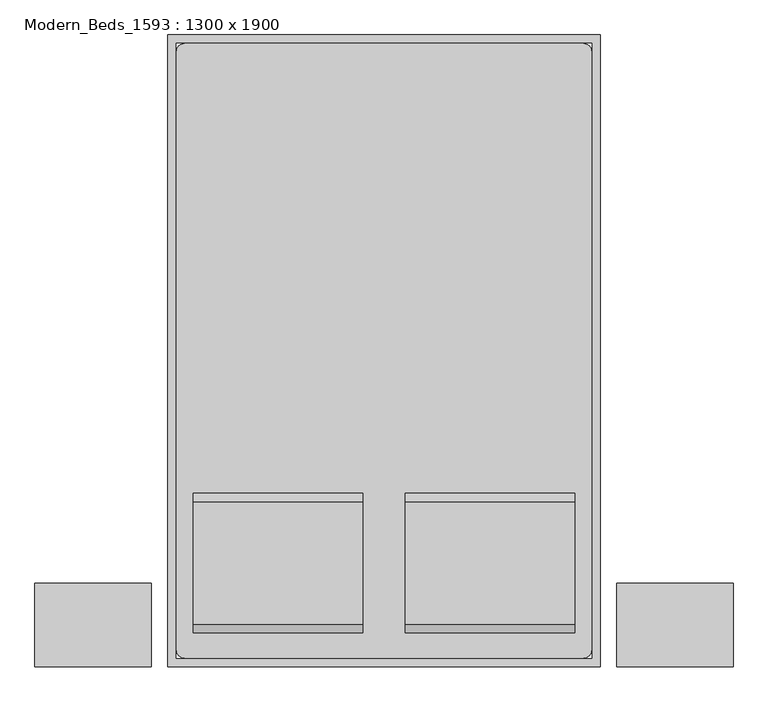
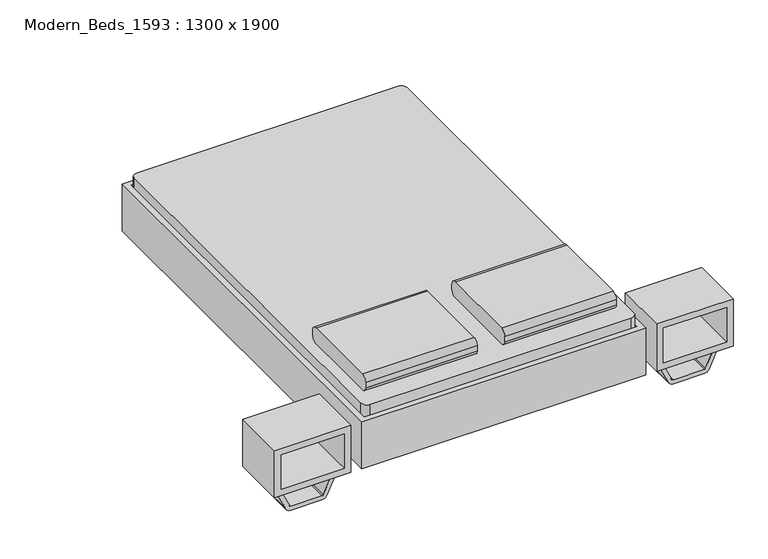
"""IFC4 building model written with IfcOpenShell, lengths in millimetres: furniture geometry, Modern_Beds_1593 : 1300 x 1900."""

from ifc_helpers import new_model, si_unit, point, frame, frame_2d, origin, place, context, project, spatial, polyline, circle_curve, trimmed, segment, composite_curve, outline, extrude, source, transform, mapped, element, save
from ifc_brep_helpers import plane_surface, cylinder_surface, revolved_surface, advanced_brep


def modern_beds_1593_1300_x_1900_d7e98e7a(model_context):
    return source(origin(), model_context, "Body", "SolidModel", [
        advanced_brep(
        [(-285.1231784, -461.5704918, 177.8), (-285.1231784, -461.5704918, 196.85), (-285.1231784, -385.3704918, 196.85), (-285.1231784, -385.3704918, 177.8), (-234.3231784, -385.3704918, 177.8), (-234.3231784, -461.5704918, 177.8), (-222.1869899, -385.3704918, 196.85), (-222.1869899, -461.5704918, 196.85), (-158.2523099, -385.3704918, 14.6654962), (-158.2523099, -461.5704918, 14.6654962), (-140.9871466, -385.3704918, 22.716374), (-140.9871466, -461.5704918, 22.716374), (-135.2320921, -385.3704918, 0.0), (-135.2320921, -461.5704918, 0.0), (-135.2320921, -385.3704918, 19.05), (-135.2320921, -461.5704918, 19.05), (-56.6195862, -385.3704918, 0.0), (-56.6195862, -461.5704918, 0.0), (-56.6195862, -385.3704918, 19.05), (-56.6195862, -461.5704918, 19.05), (-43.9195862, -385.3704918, 3.4029547), (-43.9195862, -461.5704918, 3.4029547), (-53.4445862, -385.3704918, 19.9007387), (-53.4445862, -461.5704918, 19.9007387), (16.177459, -385.3704918, 38.1), (16.177459, -461.5704918, 38.1), (11.0730269, -385.3704918, 57.15), (11.0730269, -461.5704918, 57.15), (662.4518216, -385.3704918, 38.1), (662.4518216, -461.5704918, 38.1), (667.5562537, -385.3704918, 57.15), (667.5562537, -461.5704918, 57.15), (722.5488669, -385.3704918, 3.4029547), (722.5488669, -461.5704918, 3.4029547), (732.0738669, -385.3704918, 19.9007387), (732.0738669, -461.5704918, 19.9007387), (735.2488669, -385.3704918, 0.0), (735.2488669, -461.5704918, 0.0), (735.2488669, -385.3704918, 19.05), (735.2488669, -461.5704918, 19.05), (813.8613728, -385.3704918, 0.0), (813.8613728, -461.5704918, 0.0), (813.8613728, -385.3704918, 19.05), (813.8613728, -461.5704918, 19.05), (836.8815906, -385.3704918, 14.6654962), (836.8815906, -461.5704918, 14.6654962), (819.6164272, -385.3704918, 22.716374), (819.6164272, -461.5704918, 22.716374), (912.952459, -385.3704918, 177.8), (912.952459, -461.5704918, 177.8), (900.8162705, -385.3704918, 196.85), (900.8162705, -461.5704918, 196.85), (963.752459, -461.5704918, 177.8), (963.752459, -385.3704918, 177.8), (963.752459, -385.3704918, 196.85), (963.752459, -461.5704918, 196.85)],
        [
            (0, 1),
            (1, 2),
            (2, 3),
            (3, 0),
            (3, 4),
            (4, 5),
            (5, 0),
            (2, 6),
            (6, 4),
            (1, 7),
            (7, 6),
            (5, 7),
            (4, 8),
            (8, 9),
            (9, 5),
            (6, 10),
            (10, 8),
            (7, 11),
            (11, 10),
            (9, 11),
            (12, 13),
            (13, 9, circle_curve(frame((-135.2320921, -461.5704918, 25.4), z_axis=(0.0, 1.0, 0.0), x_axis=(-0.9063077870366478, 0.0, -0.4226182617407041)), 25.4)),
            (8, 12, circle_curve(frame((-135.2320921, -385.3704918, 25.4), z_axis=(0.0, -1.0, 0.0), x_axis=(-0.9063077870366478, 0.0, -0.4226182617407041)), 25.4)),
            (14, 12),
            (10, 14, circle_curve(frame((-135.2320921, -385.3704918, 25.4), z_axis=(0.0, -1.0, 0.0), x_axis=(-0.9063077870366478, 0.0, -0.4226182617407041)), 6.35)),
            (15, 14),
            (11, 15, circle_curve(frame((-135.2320921, -461.5704918, 25.4), z_axis=(0.0, -1.0, 0.0), x_axis=(-0.9063077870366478, 0.0, -0.4226182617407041)), 6.35)),
            (13, 15),
            (12, 16),
            (16, 17),
            (17, 13),
            (14, 18),
            (18, 16),
            (15, 19),
            (19, 18),
            (17, 19),
            (20, 21),
            (21, 17, circle_curve(frame((-56.6195862, -461.5704918, 25.4), z_axis=(0.0, 1.0, 0.0), x_axis=(0.0, 0.0, -1.0)), 25.4)),
            (16, 20, circle_curve(frame((-56.6195862, -385.3704918, 25.4), z_axis=(0.0, -1.0, 0.0), x_axis=(0.0, 0.0, -1.0)), 25.4)),
            (22, 20),
            (18, 22, circle_curve(frame((-56.6195862, -385.3704918, 25.4), z_axis=(0.0, -1.0, 0.0), x_axis=(0.0, 0.0, -1.0)), 6.35)),
            (23, 22),
            (19, 23, circle_curve(frame((-56.6195862, -461.5704918, 25.4), z_axis=(0.0, -1.0, 0.0), x_axis=(0.0, 0.0, -1.0)), 6.35)),
            (21, 23),
            (20, 24),
            (24, 25),
            (25, 21),
            (22, 26),
            (26, 24),
            (23, 27),
            (27, 26),
            (25, 27),
            (24, 28),
            (28, 29),
            (29, 25),
            (26, 30),
            (30, 28),
            (27, 31),
            (31, 30),
            (29, 31),
            (28, 32),
            (32, 33),
            (33, 29),
            (30, 34),
            (34, 32),
            (31, 35),
            (35, 34),
            (33, 35),
            (36, 37),
            (37, 33, circle_curve(frame((735.2488669, -461.5704918, 25.4), z_axis=(0.0, 1.0, 0.0), x_axis=(-0.5000000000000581, 0.0, -0.8660254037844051)), 25.4)),
            (32, 36, circle_curve(frame((735.2488669, -385.3704918, 25.4), z_axis=(0.0, -1.0, 0.0), x_axis=(-0.5000000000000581, 0.0, -0.8660254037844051)), 25.4)),
            (38, 36),
            (34, 38, circle_curve(frame((735.2488669, -385.3704918, 25.4), z_axis=(0.0, -1.0, 0.0), x_axis=(-0.5000000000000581, 0.0, -0.8660254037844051)), 6.35)),
            (39, 38),
            (35, 39, circle_curve(frame((735.2488669, -461.5704918, 25.4), z_axis=(0.0, -1.0, 0.0), x_axis=(-0.5000000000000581, 0.0, -0.8660254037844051)), 6.35)),
            (37, 39),
            (36, 40),
            (40, 41),
            (41, 37),
            (38, 42),
            (42, 40),
            (39, 43),
            (43, 42),
            (41, 43),
            (44, 45),
            (45, 41, circle_curve(frame((813.8613728, -461.5704918, 25.4), z_axis=(0.0, 1.0, 0.0), x_axis=(0.0, 0.0, -1.0)), 25.4)),
            (40, 44, circle_curve(frame((813.8613728, -385.3704918, 25.4), z_axis=(0.0, -1.0, 0.0), x_axis=(0.0, 0.0, -1.0)), 25.4)),
            (46, 44),
            (42, 46, circle_curve(frame((813.8613728, -385.3704918, 25.4), z_axis=(0.0, -1.0, 0.0), x_axis=(0.0, 0.0, -1.0)), 6.35)),
            (47, 46),
            (43, 47, circle_curve(frame((813.8613728, -461.5704918, 25.4), z_axis=(0.0, -1.0, 0.0), x_axis=(0.0, 0.0, -1.0)), 6.35)),
            (45, 47),
            (44, 48),
            (48, 49),
            (49, 45),
            (46, 50),
            (50, 48),
            (47, 51),
            (51, 50),
            (49, 51),
            (52, 53),
            (53, 54),
            (54, 55),
            (55, 52),
            (48, 53),
            (52, 49),
            (50, 54),
            (51, 55),
        ],
        [
            plane_surface(frame((-285.1231784, -715.5704918, -152.9490627), z_axis=(-1.0, 0.0, 0.0), x_axis=(0.0, -1.0, 0.0))),
            plane_surface(frame((-285.1231784, -461.5704918, 177.8), z_axis=(0.0, 0.0, -1.0), x_axis=(1.0, 0.0, 0.0))),
            plane_surface(frame((-285.1231784, -385.3704918, 177.8), z_axis=(0.0, 1.0, 0.0), x_axis=(1.0, 0.0, 0.0))),
            plane_surface(frame((-285.1231784, -385.3704918, 196.85), z_axis=(0.0, 0.0, 1.0), x_axis=(1.0, 0.0, 0.0))),
            plane_surface(frame((-285.1231784, -461.5704918, 196.85), z_axis=(0.0, -1.0, 0.0), x_axis=(1.0, 0.0, 0.0))),
            plane_surface(frame((-234.3231784, -461.5704918, 177.8), z_axis=(-0.9063077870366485, 0.0, -0.42261826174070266), x_axis=(0.42261826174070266, 0.0, -0.9063077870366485))),
            plane_surface(frame((-234.3231784, -385.3704918, 177.8), z_axis=(0.0, 1.0, 0.0), x_axis=(0.4226182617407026, 0.0, -0.9063077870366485))),
            plane_surface(frame((-222.1869899, -385.3704918, 196.85), z_axis=(0.9063077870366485, 0.0, 0.42261826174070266), x_axis=(0.42261826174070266, 0.0, -0.9063077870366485))),
            plane_surface(frame((-222.1869899, -461.5704918, 196.85), z_axis=(0.0, -1.0000000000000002, 0.0), x_axis=(0.4226182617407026, 0.0, -0.9063077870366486))),
            cylinder_surface(frame((-135.2320921, -715.5704918, 25.4), z_axis=(0.0, 1.0, 0.0), x_axis=(-0.9063077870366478, 0.0, -0.4226182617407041)), 25.4),
            plane_surface(frame((-135.2320921, -385.3704918, 25.4), z_axis=(0.0, 1.0, 0.0), x_axis=(-0.9063077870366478, 0.0, -0.4226182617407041))),
            revolved_surface(polyline([(-140.9871465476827, -385.3704918, 22.71637403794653), (-140.9871465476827, -461.5704918, 22.71637403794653)]), (-135.2320921, -715.5704918, 25.4), (0.0, 1.0, 0.0)),
            plane_surface(frame((-135.2320921, -461.5704918, 25.4), z_axis=(0.0, -1.0, 0.0), x_axis=(-0.9063077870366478, 0.0, -0.4226182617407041))),
            plane_surface(frame((-135.2320921, -461.5704918, 0.0), z_axis=(0.0, 0.0, -1.0), x_axis=(1.0, 0.0, 0.0))),
            plane_surface(frame((-135.2320921, -385.3704918, 0.0), z_axis=(0.0, 1.0, 0.0), x_axis=(1.0, 0.0, 0.0))),
            plane_surface(frame((-135.2320921, -385.3704918, 19.05), z_axis=(0.0, 0.0, 1.0), x_axis=(1.0, 0.0, 0.0))),
            plane_surface(frame((-135.2320921, -461.5704918, 19.05), z_axis=(0.0, -1.0, 0.0), x_axis=(1.0, 0.0, 0.0))),
            cylinder_surface(frame((-56.6195862, -715.5704918, 25.4), z_axis=(0.0, 1.0, 0.0), x_axis=(0.0, 0.0, -1.0)), 25.4),
            plane_surface(frame((-56.6195862, -385.3704918, 25.4), z_axis=(0.0, 1.0, 0.0), x_axis=(0.0, 0.0, -1.0))),
            revolved_surface(polyline([(-56.6195862, -385.3704918, 19.049999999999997), (-56.6195862, -461.5704918, 19.049999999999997)]), (-56.6195862, -715.5704918, 25.4), (0.0, 1.0, 0.0)),
            plane_surface(frame((-56.6195862, -461.5704918, 25.4), z_axis=(0.0, -1.0, 0.0), x_axis=(0.0, 0.0, -1.0))),
            plane_surface(frame((-43.9195862, -461.5704918, 3.4029547), z_axis=(0.4999999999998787, 0.0, -0.8660254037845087), x_axis=(0.8660254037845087, 0.0, 0.4999999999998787))),
            plane_surface(frame((-43.9195862, -385.3704918, 3.4029547), z_axis=(0.0, 1.0, 0.0), x_axis=(0.8660254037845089, 0.0, 0.4999999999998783))),
            plane_surface(frame((-53.4445862, -385.3704918, 19.9007387), z_axis=(-0.49999999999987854, 0.0, 0.8660254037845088), x_axis=(0.8660254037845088, 0.0, 0.49999999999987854))),
            plane_surface(frame((-53.4445862, -461.5704918, 19.9007387), z_axis=(0.0, -1.0, 0.0), x_axis=(0.8660254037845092, 0.0, 0.4999999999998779))),
            plane_surface(frame((16.177459, -461.5704918, 38.1), z_axis=(0.0, 0.0, -1.0), x_axis=(1.0, 0.0, 0.0))),
            plane_surface(frame((16.177459, -385.3704918, 38.1), z_axis=(0.0, 1.0, 0.0), x_axis=(1.0, 0.0, 0.0))),
            plane_surface(frame((11.0730269, -385.3704918, 57.15), z_axis=(0.0, 0.0, 1.0), x_axis=(1.0, 0.0, 0.0))),
            plane_surface(frame((11.0730269, -461.5704918, 57.15), z_axis=(0.0, -1.0, 0.0), x_axis=(1.0, 0.0, 0.0))),
            plane_surface(frame((662.4518216, -461.5704918, 38.1), z_axis=(-0.5000000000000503, 0.0, -0.8660254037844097), x_axis=(0.8660254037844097, 0.0, -0.5000000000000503))),
            plane_surface(frame((662.4518216, -385.3704918, 38.1), z_axis=(0.0, 1.0000000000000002, 0.0), x_axis=(0.8660254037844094, 0.0, -0.5000000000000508))),
            plane_surface(frame((667.5562537, -385.3704918, 57.15), z_axis=(0.5000000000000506, 0.0, 0.8660254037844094), x_axis=(0.8660254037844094, 0.0, -0.5000000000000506))),
            plane_surface(frame((667.5562537, -461.5704918, 57.15), z_axis=(0.0, -1.0, 0.0), x_axis=(0.8660254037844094, 0.0, -0.5000000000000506))),
            cylinder_surface(frame((735.2488669, -715.5704918, 25.4), z_axis=(0.0, 1.0, 0.0), x_axis=(-0.5000000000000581, 0.0, -0.8660254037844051)), 25.4),
            plane_surface(frame((735.2488669, -385.3704918, 25.4), z_axis=(0.0, 1.0000000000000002, 0.0), x_axis=(-0.5000000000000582, 0.0, -0.8660254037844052))),
            revolved_surface(polyline([(732.0738668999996, -385.3704918, 19.900738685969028), (732.0738668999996, -461.5704918, 19.900738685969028)]), (735.2488669, -715.5704918, 25.4), (0.0, 1.0, 0.0)),
            plane_surface(frame((735.2488669, -461.5704918, 25.4), z_axis=(0.0, -1.0000000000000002, 0.0), x_axis=(-0.5000000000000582, 0.0, -0.8660254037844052))),
            plane_surface(frame((735.2488669, -461.5704918, 0.0), z_axis=(0.0, 0.0, -1.0), x_axis=(1.0, 0.0, 0.0))),
            plane_surface(frame((735.2488669, -385.3704918, 0.0), z_axis=(0.0, 1.0, 0.0), x_axis=(1.0, 0.0, 0.0))),
            plane_surface(frame((735.2488669, -385.3704918, 19.05), z_axis=(0.0, 0.0, 1.0), x_axis=(1.0, 0.0, 0.0))),
            plane_surface(frame((735.2488669, -461.5704918, 19.05), z_axis=(0.0, -1.0, 0.0), x_axis=(1.0, 0.0, 0.0))),
            cylinder_surface(frame((813.8613728, -715.5704918, 25.4), z_axis=(0.0, 1.0, 0.0), x_axis=(0.0, 0.0, -1.0)), 25.4),
            plane_surface(frame((813.8613728, -385.3704918, 25.4), z_axis=(0.0, 1.0, 0.0), x_axis=(0.0, 0.0, -1.0))),
            revolved_surface(polyline([(813.8613728, -385.3704918, 19.049999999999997), (813.8613728, -461.5704918, 19.049999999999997)]), (813.8613728, -715.5704918, 25.4), (0.0, 1.0, 0.0)),
            plane_surface(frame((813.8613728, -461.5704918, 25.4), z_axis=(0.0, -1.0, 0.0), x_axis=(0.0, 0.0, -1.0))),
            plane_surface(frame((836.8815906, -461.5704918, 14.6654962), z_axis=(0.9063077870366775, 0.0, -0.4226182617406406), x_axis=(0.4226182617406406, 0.0, 0.9063077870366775))),
            plane_surface(frame((836.8815906, -385.3704918, 14.6654962), z_axis=(0.0, 1.0, 0.0), x_axis=(0.42261826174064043, 0.0, 0.9063077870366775))),
            plane_surface(frame((819.6164272, -385.3704918, 22.716374), z_axis=(-0.9063077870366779, 0.0, 0.4226182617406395), x_axis=(0.4226182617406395, 0.0, 0.9063077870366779))),
            plane_surface(frame((819.6164272, -461.5704918, 22.716374), z_axis=(0.0, -1.0, 0.0), x_axis=(0.42261826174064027, 0.0, 0.9063077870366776))),
            plane_surface(frame((963.752459, -715.5704918, -152.9490627), z_axis=(1.0, 0.0, 0.0), x_axis=(0.0, -1.0, 0.0))),
            plane_surface(frame((912.952459, -461.5704918, 177.8), z_axis=(0.0, 0.0, -1.0), x_axis=(1.0, 0.0, 0.0))),
            plane_surface(frame((912.952459, -385.3704918, 177.8), z_axis=(0.0, 1.0, 0.0), x_axis=(1.0, 0.0, 0.0))),
            plane_surface(frame((900.8162705, -385.3704918, 196.85), z_axis=(0.0, 0.0, 1.0), x_axis=(1.0, 0.0, 0.0))),
            plane_surface(frame((900.8162705, -461.5704918, 196.85), z_axis=(0.0, -1.0, 0.0), x_axis=(1.0, 0.0, 0.0))),
        ],
        [
            (0, [[1, 2, 3, 4]]),
            (1, [[5, 6, 7, -4]]),
            (2, [[8, 9, -5, -3]]),
            (3, [[10, 11, -8, -2]]),
            (4, [[-7, 12, -10, -1]]),
            (5, [[13, 14, 15, -6]]),
            (6, [[16, 17, -13, -9]]),
            (7, [[18, 19, -16, -11]]),
            (8, [[-15, 20, -18, -12]]),
            (9, [[21, 22, -14, 23]]),
            (10, [[24, -23, -17, 25]]),
            (11, [[26, -25, -19, 27]]),
            (12, [[28, -27, -20, -22]]),
            (13, [[29, 30, 31, -21]]),
            (14, [[32, 33, -29, -24]]),
            (15, [[34, 35, -32, -26]]),
            (16, [[-31, 36, -34, -28]]),
            (17, [[37, 38, -30, 39]]),
            (18, [[40, -39, -33, 41]]),
            (19, [[42, -41, -35, 43]]),
            (20, [[44, -43, -36, -38]]),
            (21, [[45, 46, 47, -37]]),
            (22, [[48, 49, -45, -40]]),
            (23, [[50, 51, -48, -42]]),
            (24, [[-47, 52, -50, -44]]),
            (25, [[53, 54, 55, -46]]),
            (26, [[56, 57, -53, -49]]),
            (27, [[58, 59, -56, -51]]),
            (28, [[-55, 60, -58, -52]]),
            (29, [[61, 62, 63, -54]]),
            (30, [[64, 65, -61, -57]]),
            (31, [[66, 67, -64, -59]]),
            (32, [[-63, 68, -66, -60]]),
            (33, [[69, 70, -62, 71]]),
            (34, [[72, -71, -65, 73]]),
            (35, [[74, -73, -67, 75]]),
            (36, [[76, -75, -68, -70]]),
            (37, [[77, 78, 79, -69]]),
            (38, [[80, 81, -77, -72]]),
            (39, [[82, 83, -80, -74]]),
            (40, [[-79, 84, -82, -76]]),
            (41, [[85, 86, -78, 87]]),
            (42, [[88, -87, -81, 89]]),
            (43, [[90, -89, -83, 91]]),
            (44, [[92, -91, -84, -86]]),
            (45, [[93, 94, 95, -85]]),
            (46, [[96, 97, -93, -88]]),
            (47, [[98, 99, -96, -90]]),
            (48, [[-95, 100, -98, -92]]),
            (49, [[101, 102, 103, 104]]),
            (50, [[105, -101, 106, -94]]),
            (51, [[107, -102, -105, -97]]),
            (52, [[108, -103, -107, -99]]),
            (53, [[-106, -104, -108, -100]]),
        ],
    ),
        advanced_brep(
        [(-285.447541, 879.6295082, 196.85), (-285.447541, 955.8295082, 196.85), (-285.447541, 955.8295082, 177.8), (-285.447541, 879.6295082, 177.8), (-234.647541, 879.6295082, 177.8), (-222.5113525, 879.6295082, 196.85), (-234.647541, 955.8295082, 177.8), (-222.5113525, 955.8295082, 196.85), (-158.5766725, 879.6295082, 14.6654962), (-141.3115092, 879.6295082, 22.716374), (-158.5766725, 955.8295082, 14.6654962), (-141.3115092, 955.8295082, 22.716374), (-135.5564547, 879.6295082, 0.0), (-135.5564547, 879.6295082, 19.05), (-135.5564547, 955.8295082, 0.0), (-135.5564547, 955.8295082, 19.05), (-56.9439489, 879.6295082, 0.0), (-56.9439489, 879.6295082, 19.05), (-56.9439489, 955.8295082, 0.0), (-56.9439489, 955.8295082, 19.05), (-44.2439489, 879.6295082, 3.4029547), (-53.7689489, 879.6295082, 19.9007387), (-44.2439489, 955.8295082, 3.4029547), (-53.7689489, 955.8295082, 19.9007387), (15.8530964, 879.6295082, 38.1), (10.7486643, 879.6295082, 57.15), (15.8530964, 955.8295082, 38.1), (10.7486643, 955.8295082, 57.15), (662.4518216, 879.6295082, 38.1), (667.5562537, 879.6295082, 57.15), (662.4518216, 955.8295082, 38.1), (667.5562537, 955.8295082, 57.15), (722.5488669, 879.6295082, 3.4029547), (732.0738669, 879.6295082, 19.9007387), (722.5488669, 955.8295082, 3.4029547), (732.0738669, 955.8295082, 19.9007387), (735.2488669, 879.6295082, 0.0), (735.2488669, 879.6295082, 19.05), (735.2488669, 955.8295082, 0.0), (735.2488669, 955.8295082, 19.05), (813.8613728, 879.6295082, 0.0), (813.8613728, 879.6295082, 19.05), (813.8613728, 955.8295082, 0.0), (813.8613728, 955.8295082, 19.05), (836.8815906, 879.6295082, 14.6654962), (819.6164272, 879.6295082, 22.716374), (836.8815906, 955.8295082, 14.6654962), (819.6164272, 955.8295082, 22.716374), (912.952459, 879.6295082, 177.8), (900.8162705, 879.6295082, 196.85), (912.952459, 955.8295082, 177.8), (900.8162705, 955.8295082, 196.85), (963.752459, 879.6295082, 196.85), (963.752459, 879.6295082, 177.8), (963.752459, 955.8295082, 177.8), (963.752459, 955.8295082, 196.85)],
        [
            (0, 1),
            (1, 2),
            (2, 3),
            (3, 0),
            (3, 4),
            (4, 5),
            (5, 0),
            (2, 6),
            (6, 4),
            (1, 7),
            (7, 6),
            (5, 7),
            (4, 8),
            (8, 9),
            (9, 5),
            (6, 10),
            (10, 8),
            (7, 11),
            (11, 10),
            (9, 11),
            (12, 13),
            (13, 9, circle_curve(frame((-135.5564547, 879.6295082, 25.4), z_axis=(0.0, 1.0, 0.0), x_axis=(-0.9063077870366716, 0.0, -0.422618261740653)), 6.35)),
            (8, 12, circle_curve(frame((-135.5564547, 879.6295082, 25.4), z_axis=(0.0, -1.0, 0.0), x_axis=(-0.9063077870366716, 0.0, -0.422618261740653)), 25.4)),
            (14, 12),
            (10, 14, circle_curve(frame((-135.5564547, 955.8295082, 25.4), z_axis=(0.0, -1.0, 0.0), x_axis=(-0.9063077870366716, 0.0, -0.422618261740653)), 25.4)),
            (15, 14),
            (11, 15, circle_curve(frame((-135.5564547, 955.8295082, 25.4), z_axis=(0.0, -1.0, 0.0), x_axis=(-0.9063077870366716, 0.0, -0.422618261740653)), 6.35)),
            (13, 15),
            (12, 16),
            (16, 17),
            (17, 13),
            (14, 18),
            (18, 16),
            (15, 19),
            (19, 18),
            (17, 19),
            (20, 21),
            (21, 17, circle_curve(frame((-56.9439489, 879.6295082, 25.4), z_axis=(0.0, 1.0, 0.0), x_axis=(0.0, 0.0, -1.0)), 6.35)),
            (16, 20, circle_curve(frame((-56.9439489, 879.6295082, 25.4), z_axis=(0.0, -1.0, 0.0), x_axis=(0.0, 0.0, -1.0)), 25.4)),
            (22, 20),
            (18, 22, circle_curve(frame((-56.9439489, 955.8295082, 25.4), z_axis=(0.0, -1.0, 0.0), x_axis=(0.0, 0.0, -1.0)), 25.4)),
            (23, 22),
            (19, 23, circle_curve(frame((-56.9439489, 955.8295082, 25.4), z_axis=(0.0, -1.0, 0.0), x_axis=(0.0, 0.0, -1.0)), 6.35)),
            (21, 23),
            (20, 24),
            (24, 25),
            (25, 21),
            (22, 26),
            (26, 24),
            (23, 27),
            (27, 26),
            (25, 27),
            (24, 28),
            (28, 29),
            (29, 25),
            (26, 30),
            (30, 28),
            (27, 31),
            (31, 30),
            (29, 31),
            (28, 32),
            (32, 33),
            (33, 29),
            (30, 34),
            (34, 32),
            (31, 35),
            (35, 34),
            (33, 35),
            (36, 37),
            (37, 33, circle_curve(frame((735.2488669, 879.6295082, 25.4), z_axis=(0.0, 1.0, 0.0), x_axis=(-0.5000000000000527, 0.0, -0.8660254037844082)), 6.35)),
            (32, 36, circle_curve(frame((735.2488669, 879.6295082, 25.4), z_axis=(0.0, -1.0, 0.0), x_axis=(-0.5000000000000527, 0.0, -0.8660254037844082)), 25.4)),
            (38, 36),
            (34, 38, circle_curve(frame((735.2488669, 955.8295082, 25.4), z_axis=(0.0, -1.0, 0.0), x_axis=(-0.5000000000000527, 0.0, -0.8660254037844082)), 25.4)),
            (39, 38),
            (35, 39, circle_curve(frame((735.2488669, 955.8295082, 25.4), z_axis=(0.0, -1.0, 0.0), x_axis=(-0.5000000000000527, 0.0, -0.8660254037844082)), 6.35)),
            (37, 39),
            (36, 40),
            (40, 41),
            (41, 37),
            (38, 42),
            (42, 40),
            (39, 43),
            (43, 42),
            (41, 43),
            (44, 45),
            (45, 41, circle_curve(frame((813.8613728, 879.6295082, 25.4), z_axis=(0.0, 1.0, 0.0), x_axis=(0.0, 0.0, -1.0)), 6.35)),
            (40, 44, circle_curve(frame((813.8613728, 879.6295082, 25.4), z_axis=(0.0, -1.0, 0.0), x_axis=(0.0, 0.0, -1.0)), 25.4)),
            (46, 44),
            (42, 46, circle_curve(frame((813.8613728, 955.8295082, 25.4), z_axis=(0.0, -1.0, 0.0), x_axis=(0.0, 0.0, -1.0)), 25.4)),
            (47, 46),
            (43, 47, circle_curve(frame((813.8613728, 955.8295082, 25.4), z_axis=(0.0, -1.0, 0.0), x_axis=(0.0, 0.0, -1.0)), 6.35)),
            (45, 47),
            (44, 48),
            (48, 49),
            (49, 45),
            (46, 50),
            (50, 48),
            (47, 51),
            (51, 50),
            (49, 51),
            (52, 53),
            (53, 54),
            (54, 55),
            (55, 52),
            (48, 53),
            (52, 49),
            (50, 54),
            (51, 55),
        ],
        [
            plane_surface(frame((-285.447541, 1184.4295082, -127.5947323), z_axis=(-1.0, 0.0, 0.0), x_axis=(0.0, -1.0, 0.0))),
            plane_surface(frame((-285.447541, 879.6295082, 196.85), z_axis=(0.0, -1.0, 0.0), x_axis=(1.0, 0.0, 0.0))),
            plane_surface(frame((-285.447541, 879.6295082, 177.8), z_axis=(0.0, 0.0, -1.0), x_axis=(1.0, 0.0, 0.0))),
            plane_surface(frame((-285.447541, 955.8295082, 177.8), z_axis=(0.0, 1.0, 0.0), x_axis=(1.0, 0.0, 0.0))),
            plane_surface(frame((-285.447541, 955.8295082, 196.85), z_axis=(0.0, 0.0, 1.0), x_axis=(1.0, 0.0, 0.0))),
            plane_surface(frame((-222.5113525, 879.6295082, 196.85), z_axis=(0.0, -1.0, 0.0), x_axis=(0.4226182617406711, 0.0, -0.9063077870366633))),
            plane_surface(frame((-234.647541, 879.6295082, 177.8), z_axis=(-0.9063077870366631, 0.0, -0.4226182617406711), x_axis=(0.4226182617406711, 0.0, -0.9063077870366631))),
            plane_surface(frame((-234.647541, 955.8295082, 177.8), z_axis=(0.0, 1.0, 0.0), x_axis=(0.4226182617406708, 0.0, -0.9063077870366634))),
            plane_surface(frame((-222.5113525, 955.8295082, 196.85), z_axis=(0.9063077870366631, 0.0, 0.4226182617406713), x_axis=(0.4226182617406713, 0.0, -0.9063077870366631))),
            plane_surface(frame((-135.5564547, 879.6295082, 25.4), z_axis=(0.0, -1.0000000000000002, 0.0), x_axis=(-0.9063077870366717, 0.0, -0.42261826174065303))),
            cylinder_surface(frame((-135.5564547, 1184.4295082, 25.4), z_axis=(0.0, 1.0, 0.0), x_axis=(-0.9063077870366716, 0.0, -0.422618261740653)), 25.4),
            plane_surface(frame((-135.5564547, 955.8295082, 25.4), z_axis=(0.0, 1.0000000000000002, 0.0), x_axis=(-0.9063077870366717, 0.0, -0.42261826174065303))),
            revolved_surface(polyline([(-141.31150914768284, 955.8295082, 22.716374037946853), (-141.31150914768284, 879.6295082, 22.716374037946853)]), (-135.5564547, 1184.4295082, 25.4), (0.0, 1.0, 0.0)),
            plane_surface(frame((-135.5564547, 879.6295082, 19.05), z_axis=(0.0, -1.0, 0.0), x_axis=(1.0, 0.0, 0.0))),
            plane_surface(frame((-135.5564547, 879.6295082, 0.0), z_axis=(0.0, 0.0, -1.0), x_axis=(1.0, 0.0, 0.0))),
            plane_surface(frame((-135.5564547, 955.8295082, 0.0), z_axis=(0.0, 1.0, 0.0), x_axis=(1.0, 0.0, 0.0))),
            plane_surface(frame((-135.5564547, 955.8295082, 19.05), z_axis=(0.0, 0.0, 1.0), x_axis=(1.0, 0.0, 0.0))),
            plane_surface(frame((-56.9439489, 879.6295082, 25.4), z_axis=(0.0, -1.0, 0.0), x_axis=(0.0, 0.0, -1.0))),
            cylinder_surface(frame((-56.9439489, 1184.4295082, 25.4), z_axis=(0.0, 1.0, 0.0), x_axis=(0.0, 0.0, -1.0)), 25.4),
            plane_surface(frame((-56.9439489, 955.8295082, 25.4), z_axis=(0.0, 1.0, 0.0), x_axis=(0.0, 0.0, -1.0))),
            revolved_surface(polyline([(-56.9439489, 955.8295082, 19.049999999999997), (-56.9439489, 879.6295082, 19.049999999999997)]), (-56.9439489, 1184.4295082, 25.4), (0.0, 1.0, 0.0)),
            plane_surface(frame((-53.7689489, 879.6295082, 19.9007387), z_axis=(0.0, -1.0, 0.0), x_axis=(0.8660254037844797, 0.0, 0.4999999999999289))),
            plane_surface(frame((-44.2439489, 879.6295082, 3.4029547), z_axis=(0.49999999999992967, 0.0, -0.8660254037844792), x_axis=(0.8660254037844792, 0.0, 0.49999999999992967))),
            plane_surface(frame((-44.2439489, 955.8295082, 3.4029547), z_axis=(0.0, 1.0, 0.0), x_axis=(0.8660254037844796, 0.0, 0.4999999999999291))),
            plane_surface(frame((-53.7689489, 955.8295082, 19.9007387), z_axis=(-0.4999999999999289, 0.0, 0.8660254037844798), x_axis=(0.8660254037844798, 0.0, 0.4999999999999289))),
            plane_surface(frame((10.7486643, 879.6295082, 57.15), z_axis=(0.0, -1.0, 0.0), x_axis=(1.0, 0.0, 0.0))),
            plane_surface(frame((15.8530964, 879.6295082, 38.1), z_axis=(0.0, 0.0, -1.0), x_axis=(1.0, 0.0, 0.0))),
            plane_surface(frame((15.8530964, 955.8295082, 38.1), z_axis=(0.0, 1.0, 0.0), x_axis=(1.0, 0.0, 0.0))),
            plane_surface(frame((10.7486643, 955.8295082, 57.15), z_axis=(0.0, 0.0, 1.0), x_axis=(1.0, 0.0, 0.0))),
            plane_surface(frame((667.5562537, 879.6295082, 57.15), z_axis=(0.0, -1.0, 0.0), x_axis=(0.86602540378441, 0.0, -0.5000000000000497))),
            plane_surface(frame((662.4518216, 879.6295082, 38.1), z_axis=(-0.5000000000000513, 0.0, -0.8660254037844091), x_axis=(0.8660254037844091, 0.0, -0.5000000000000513))),
            plane_surface(frame((662.4518216, 955.8295082, 38.1), z_axis=(0.0, 1.0000000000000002, 0.0), x_axis=(0.866025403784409, 0.0, -0.5000000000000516))),
            plane_surface(frame((667.5562537, 955.8295082, 57.15), z_axis=(0.5000000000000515, 0.0, 0.866025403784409), x_axis=(0.866025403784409, 0.0, -0.5000000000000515))),
            plane_surface(frame((735.2488669, 879.6295082, 25.4), z_axis=(0.0, -1.0, 0.0), x_axis=(-0.5000000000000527, 0.0, -0.8660254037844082))),
            cylinder_surface(frame((735.2488669, 1184.4295082, 25.4), z_axis=(0.0, 1.0, 0.0), x_axis=(-0.5000000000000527, 0.0, -0.8660254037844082)), 25.4),
            plane_surface(frame((735.2488669, 955.8295082, 25.4), z_axis=(0.0, 1.0, 0.0), x_axis=(-0.5000000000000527, 0.0, -0.8660254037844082))),
            revolved_surface(polyline([(732.0738668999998, 955.8295082, 19.900738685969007), (732.0738668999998, 879.6295082, 19.900738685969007)]), (735.2488669, 1184.4295082, 25.4), (0.0, 1.0, 0.0)),
            plane_surface(frame((735.2488669, 879.6295082, 19.05), z_axis=(0.0, -1.0, 0.0), x_axis=(1.0, 0.0, 0.0))),
            plane_surface(frame((735.2488669, 879.6295082, 0.0), z_axis=(0.0, 0.0, -1.0), x_axis=(1.0, 0.0, 0.0))),
            plane_surface(frame((735.2488669, 955.8295082, 0.0), z_axis=(0.0, 1.0, 0.0), x_axis=(1.0, 0.0, 0.0))),
            plane_surface(frame((735.2488669, 955.8295082, 19.05), z_axis=(0.0, 0.0, 1.0), x_axis=(1.0, 0.0, 0.0))),
            plane_surface(frame((813.8613728, 879.6295082, 25.4), z_axis=(0.0, -1.0, 0.0), x_axis=(0.0, 0.0, -1.0))),
            cylinder_surface(frame((813.8613728, 1184.4295082, 25.4), z_axis=(0.0, 1.0, 0.0), x_axis=(0.0, 0.0, -1.0)), 25.4),
            plane_surface(frame((813.8613728, 955.8295082, 25.4), z_axis=(0.0, 1.0, 0.0), x_axis=(0.0, 0.0, -1.0))),
            revolved_surface(polyline([(813.8613728, 955.8295082, 19.049999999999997), (813.8613728, 879.6295082, 19.049999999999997)]), (813.8613728, 1184.4295082, 25.4), (0.0, 1.0, 0.0)),
            plane_surface(frame((819.6164272, 879.6295082, 22.716374), z_axis=(0.0, -1.0, 0.0), x_axis=(0.42261826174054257, 0.0, 0.9063077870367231))),
            plane_surface(frame((836.8815906, 879.6295082, 14.6654962), z_axis=(0.9063077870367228, 0.0, -0.42261826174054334), x_axis=(0.42261826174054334, 0.0, 0.9063077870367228))),
            plane_surface(frame((836.8815906, 955.8295082, 14.6654962), z_axis=(0.0, 1.0000000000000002, 0.0), x_axis=(0.42261826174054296, 0.0, 0.906307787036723))),
            plane_surface(frame((819.6164272, 955.8295082, 22.716374), z_axis=(-0.9063077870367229, 0.0, 0.42261826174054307), x_axis=(0.42261826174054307, 0.0, 0.9063077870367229))),
            plane_surface(frame((963.752459, 1184.4295082, -127.5947323), z_axis=(1.0, 0.0, 0.0), x_axis=(0.0, -1.0, 0.0))),
            plane_surface(frame((900.8162705, 879.6295082, 196.85), z_axis=(0.0, -1.0, 0.0), x_axis=(1.0, 0.0, 0.0))),
            plane_surface(frame((912.952459, 879.6295082, 177.8), z_axis=(0.0, 0.0, -1.0), x_axis=(1.0, 0.0, 0.0))),
            plane_surface(frame((912.952459, 955.8295082, 177.8), z_axis=(0.0, 1.0, 0.0), x_axis=(1.0, 0.0, 0.0))),
            plane_surface(frame((900.8162705, 955.8295082, 196.85), z_axis=(0.0, 0.0, 1.0), x_axis=(1.0, 0.0, 0.0))),
        ],
        [
            (0, [[1, 2, 3, 4]]),
            (1, [[5, 6, 7, -4]]),
            (2, [[8, 9, -5, -3]]),
            (3, [[10, 11, -8, -2]]),
            (4, [[-7, 12, -10, -1]]),
            (5, [[13, 14, 15, -6]]),
            (6, [[16, 17, -13, -9]]),
            (7, [[18, 19, -16, -11]]),
            (8, [[-15, 20, -18, -12]]),
            (9, [[21, 22, -14, 23]]),
            (10, [[24, -23, -17, 25]]),
            (11, [[26, -25, -19, 27]]),
            (12, [[28, -27, -20, -22]]),
            (13, [[29, 30, 31, -21]]),
            (14, [[32, 33, -29, -24]]),
            (15, [[34, 35, -32, -26]]),
            (16, [[-31, 36, -34, -28]]),
            (17, [[37, 38, -30, 39]]),
            (18, [[40, -39, -33, 41]]),
            (19, [[42, -41, -35, 43]]),
            (20, [[44, -43, -36, -38]]),
            (21, [[45, 46, 47, -37]]),
            (22, [[48, 49, -45, -40]]),
            (23, [[50, 51, -48, -42]]),
            (24, [[-47, 52, -50, -44]]),
            (25, [[53, 54, 55, -46]]),
            (26, [[56, 57, -53, -49]]),
            (27, [[58, 59, -56, -51]]),
            (28, [[-55, 60, -58, -52]]),
            (29, [[61, 62, 63, -54]]),
            (30, [[64, 65, -61, -57]]),
            (31, [[66, 67, -64, -59]]),
            (32, [[-63, 68, -66, -60]]),
            (33, [[69, 70, -62, 71]]),
            (34, [[72, -71, -65, 73]]),
            (35, [[74, -73, -67, 75]]),
            (36, [[76, -75, -68, -70]]),
            (37, [[77, 78, 79, -69]]),
            (38, [[80, 81, -77, -72]]),
            (39, [[82, 83, -80, -74]]),
            (40, [[-79, 84, -82, -76]]),
            (41, [[85, 86, -78, 87]]),
            (42, [[88, -87, -81, 89]]),
            (43, [[90, -89, -83, 91]]),
            (44, [[92, -91, -84, -86]]),
            (45, [[93, 94, 95, -85]]),
            (46, [[96, 97, -93, -88]]),
            (47, [[98, 99, -96, -90]]),
            (48, [[-95, 100, -98, -92]]),
            (49, [[101, 102, 103, 104]]),
            (50, [[105, -101, 106, -94]]),
            (51, [[107, -102, -105, -97]]),
            (52, [[108, -103, -107, -99]]),
            (53, [[-106, -104, -108, -100]]),
        ],
    ),
        extrude(outline(composite_curve([segment(trimmed(circle_curve(frame_2d((-588.5704918, 431.8)), 25.4), [point((-588.5704918, 406.4))], [point((-613.9704918, 431.8))], False, "CARTESIAN"), True, "CONTINUOUS"), segment(polyline([(-613.9704918, 431.8), (-613.9704918, 457.2)]), True, "CONTINUOUS"), segment(trimmed(circle_curve(frame_2d((-588.5704918, 457.2)), 25.4), [point((-613.9704918, 457.2))], [point((-588.5704918, 482.6))], False, "CARTESIAN"), True, "CONTINUOUS"), segment(polyline([(-588.5704918, 482.6), (-220.2704918, 482.6)]), True, "CONTINUOUS"), segment(trimmed(circle_curve(frame_2d((-220.2704918, 457.2)), 25.4), [point((-220.2704918, 482.6))], [point((-194.8704918, 457.2))], False, "CARTESIAN"), True, "CONTINUOUS"), segment(polyline([(-194.8704918, 457.2), (-194.8704918, 431.8)]), True, "CONTINUOUS"), segment(trimmed(circle_curve(frame_2d((-220.2704918, 431.8)), 25.4), [point((-194.8704918, 431.8))], [point((-220.2704918, 406.4))], False, "CARTESIAN"), True, "CONTINUOUS"), segment(polyline([(-220.2704918, 406.4), (-588.5704918, 406.4)]), True, "CONTINUOUS")], self_intersect=False)), frame((402.652459, 0.0, 0.0), z_axis=(1.0, 0.0, 0.0), x_axis=(0.0, 1.0, 0.0)), (0.0, 0.0, 1.0), 510.3),
        extrude(outline(composite_curve([segment(trimmed(circle_curve(frame_2d((-588.5704918, 431.8)), 25.4), [point((-588.5704918, 406.4))], [point((-613.9704918, 431.8))], False, "CARTESIAN"), True, "CONTINUOUS"), segment(polyline([(-613.9704918, 431.8), (-613.9704918, 457.2)]), True, "CONTINUOUS"), segment(trimmed(circle_curve(frame_2d((-588.5704918, 457.2)), 25.4), [point((-613.9704918, 457.2))], [point((-588.5704918, 482.6))], False, "CARTESIAN"), True, "CONTINUOUS"), segment(polyline([(-588.5704918, 482.6), (-220.2704918, 482.6)]), True, "CONTINUOUS"), segment(trimmed(circle_curve(frame_2d((-220.2704918, 457.2)), 25.4), [point((-220.2704918, 482.6))], [point((-194.8704918, 457.2))], False, "CARTESIAN"), True, "CONTINUOUS"), segment(polyline([(-194.8704918, 457.2), (-194.8704918, 431.8)]), True, "CONTINUOUS"), segment(trimmed(circle_curve(frame_2d((-220.2704918, 431.8)), 25.4), [point((-194.8704918, 431.8))], [point((-220.2704918, 406.4))], False, "CARTESIAN"), True, "CONTINUOUS"), segment(polyline([(-220.2704918, 406.4), (-588.5704918, 406.4)]), True, "CONTINUOUS")], self_intersect=False)), frame((-234.647541, 0.0, 0.0), z_axis=(1.0, 0.0, 0.0), x_axis=(0.0, 1.0, 0.0)), (0.0, 0.0, 1.0), 510.3),
        extrude(outline(composite_curve([segment(trimmed(circle_curve(frame_2d((-260.047541, -664.7704918)), 25.4), [point((-260.047541, -690.1704918))], [point((-285.447541, -664.7704918))], False, "CARTESIAN"), True, "CONTINUOUS"), segment(polyline([(-285.447541, -664.7704918), (-285.447541, 1133.6295082)]), True, "CONTINUOUS"), segment(trimmed(circle_curve(frame_2d((-260.047541, 1133.6295082)), 25.4), [point((-285.447541, 1133.6295082))], [point((-260.047541, 1159.0295082))], False, "CARTESIAN"), True, "CONTINUOUS"), segment(polyline([(-260.047541, 1159.0295082), (938.352459, 1159.0295082)]), True, "CONTINUOUS"), segment(trimmed(circle_curve(frame_2d((938.352459, 1133.6295082)), 25.4), [point((938.352459, 1159.0295082))], [point((963.752459, 1133.6295082))], False, "CARTESIAN"), True, "CONTINUOUS"), segment(polyline([(963.752459, 1133.6295082), (963.752459, -664.7704918)]), True, "CONTINUOUS"), segment(trimmed(circle_curve(frame_2d((938.352459, -664.7704918)), 25.4), [point((963.752459, -664.7704918))], [point((938.352459, -690.1704918))], False, "CARTESIAN"), True, "CONTINUOUS"), segment(polyline([(938.352459, -690.1704918), (-260.047541, -690.1704918)]), True, "CONTINUOUS")], self_intersect=False)), frame((0.0, 0.0, 203.2), z_axis=(0.0, 0.0, 1.0), x_axis=(1.0, 0.0, 0.0)), (0.0, 0.0, 1.0), 203.2),
        extrude(outline(composite_curve([segment(polyline([(14.6654962, -441.7035367), (116.2774654, -394.3210972), (127.0, -394.3210972), (127.0, -414.3210972), (118.4634671, -414.3210972), (22.716374, -458.9687)]), True, "CONTINUOUS"), segment(trimmed(circle_curve(frame_2d((25.4, -464.7237544)), 6.35), [point((22.716374, -458.9687))], [point((19.05, -464.7237544))], True, "CARTESIAN"), True, "CONTINUOUS"), segment(polyline([(19.05, -464.7237544), (19.05, -606.9713275)]), True, "CONTINUOUS"), segment(trimmed(circle_curve(frame_2d((25.4, -606.9713275)), 6.35), [point((19.05, -606.9713275))], [point((22.716374, -612.726382))], True, "CARTESIAN"), True, "CONTINUOUS"), segment(polyline([(22.716374, -612.726382), (118.4634671, -657.3739847), (127.0, -657.3739847), (127.0, -677.3739847), (116.2774654, -677.3739847), (14.6654962, -629.9915453)]), True, "CONTINUOUS"), segment(trimmed(circle_curve(frame_2d((25.4, -606.9713275)), 25.4), [point((14.6654962, -629.9915453))], [point((0.0, -606.9713275))], False, "CARTESIAN"), True, "CONTINUOUS"), segment(polyline([(0.0, -606.9713275), (0.0, -464.7237544)]), True, "CONTINUOUS"), segment(trimmed(circle_curve(frame_2d((25.4, -464.7237544)), 25.4), [point((0.0, -464.7237544))], [point((14.6654962, -441.7035367))], False, "CARTESIAN"), True, "CONTINUOUS")], self_intersect=False)), frame((0.0, -665.5704918, 0.0), z_axis=(0.0, 1.0, 0.0), x_axis=(0.0, 0.0, 1.0)), (0.0, 0.0, 1.0), 150.0),
        extrude(outline(polyline([(127.0, -360.847541), (355.6, -360.847541), (355.6, -710.847541), (127.0, -710.847541), (127.0, -360.847541)]), holes=[polyline([(325.6, -680.847541), (325.6, -390.847541), (157.0, -390.847541), (157.0, -680.847541), (325.6, -680.847541)])]), frame((0.0, -715.5704918, 0.0), z_axis=(0.0, 1.0, 0.0), x_axis=(0.0, 0.0, 1.0)), (0.0, 0.0, 1.0), 250.0),
        extrude(outline(composite_curve([segment(polyline([(14.6654962, 1308.2964633), (116.2774654, 1355.6789028), (127.0, 1355.6789028), (127.0, 1335.6789028), (118.4634671, 1335.6789028), (22.716374, 1291.0313)]), True, "CONTINUOUS"), segment(trimmed(circle_curve(frame_2d((25.4, 1285.2762456)), 6.35), [point((22.716374, 1291.0313))], [point((19.05, 1285.2762456))], True, "CARTESIAN"), True, "CONTINUOUS"), segment(polyline([(19.05, 1285.2762456), (19.05, 1143.0286725)]), True, "CONTINUOUS"), segment(trimmed(circle_curve(frame_2d((25.4, 1143.0286725)), 6.35), [point((19.05, 1143.0286725))], [point((22.716374, 1137.273618))], True, "CARTESIAN"), True, "CONTINUOUS"), segment(polyline([(22.716374, 1137.273618), (118.4634671, 1092.6260153), (127.0, 1092.6260153), (127.0, 1072.6260153), (116.2774654, 1072.6260153), (14.6654962, 1120.0084547)]), True, "CONTINUOUS"), segment(trimmed(circle_curve(frame_2d((25.4, 1143.0286725)), 25.4), [point((14.6654962, 1120.0084547))], [point((0.0, 1143.0286725))], False, "CARTESIAN"), True, "CONTINUOUS"), segment(polyline([(0.0, 1143.0286725), (0.0, 1285.2762456)]), True, "CONTINUOUS"), segment(trimmed(circle_curve(frame_2d((25.4, 1285.2762456)), 25.4), [point((0.0, 1285.2762456))], [point((14.6654962, 1308.2964633))], False, "CARTESIAN"), True, "CONTINUOUS")], self_intersect=False)), frame((0.0, -665.5704918, 0.0), z_axis=(0.0, 1.0, 0.0), x_axis=(0.0, 0.0, 1.0)), (0.0, 0.0, 1.0), 150.0),
        extrude(outline(polyline([(127.0, 1039.152459), (127.0, 1389.152459), (355.6, 1389.152459), (355.6, 1039.152459), (127.0, 1039.152459)]), holes=[polyline([(325.6, 1359.152459), (157.0, 1359.152459), (157.0, 1069.152459), (325.6, 1069.152459), (325.6, 1359.152459)])]), frame((0.0, -715.5704918, 0.0), z_axis=(0.0, 1.0, 0.0), x_axis=(0.0, 0.0, 1.0)), (0.0, 0.0, 1.0), 250.0),
        extrude(outline(polyline([(989.152459, -715.5704918), (-310.847541, -715.5704918), (-310.847541, 1184.4295082), (989.152459, 1184.4295082), (989.152459, -715.5704918)]), holes=[polyline([(963.752459, -690.1704918), (963.752459, 1159.0295082), (-285.447541, 1159.0295082), (-285.447541, -690.1704918), (963.752459, -690.1704918)])]), frame((0.0, 0.0, 127.0), z_axis=(0.0, 0.0, 1.0), x_axis=(1.0, 0.0, 0.0)), (0.0, 0.0, 1.0), 228.6),
    ])


if __name__ == "__main__":
    model = new_model("IFC4")
    model_context = context("Model", 3, world=origin())
    ifc_project = project(units=[si_unit("LENGTHUNIT", "METRE", prefix="MILLI")], contexts=[model_context])
    site = spatial("IfcSite", under=ifc_project)
    building = spatial("IfcBuilding", under=site)
    placement = place(None, origin())
    modern_beds_1593_1300_x_1900_shape = modern_beds_1593_1300_x_1900_d7e98e7a(model_context)
    element("IfcFurniture", 1, ObjectType="Modern_Beds_1593 : 1300 x 1900", at=placement, inside=building, context=model_context, shape_type="MappedRepresentation", body=[
        mapped(modern_beds_1593_1300_x_1900_shape, transform((0.0, 0.0, 0.0), x_axis=(1.0, 0.0, 0.0), y_axis=(0.0, 1.0, 0.0), z_axis=(0.0, 0.0, 1.0))),
    ])
    save(model, "model.ifc")
